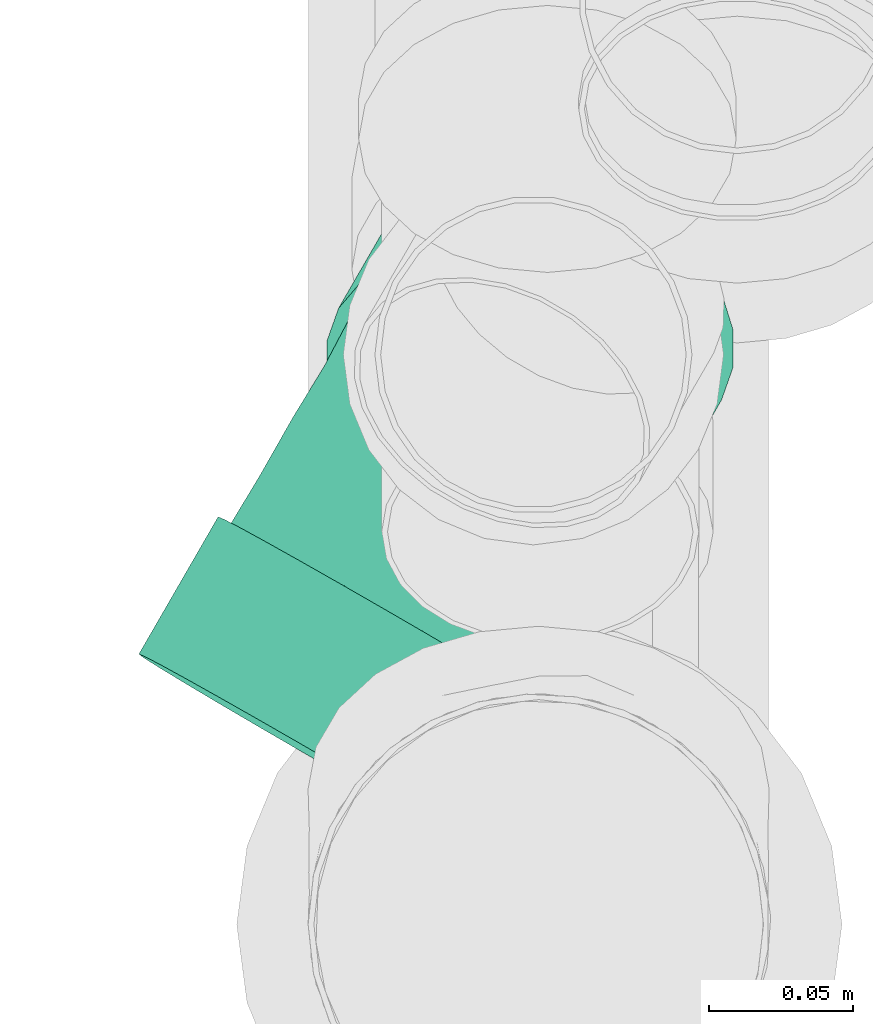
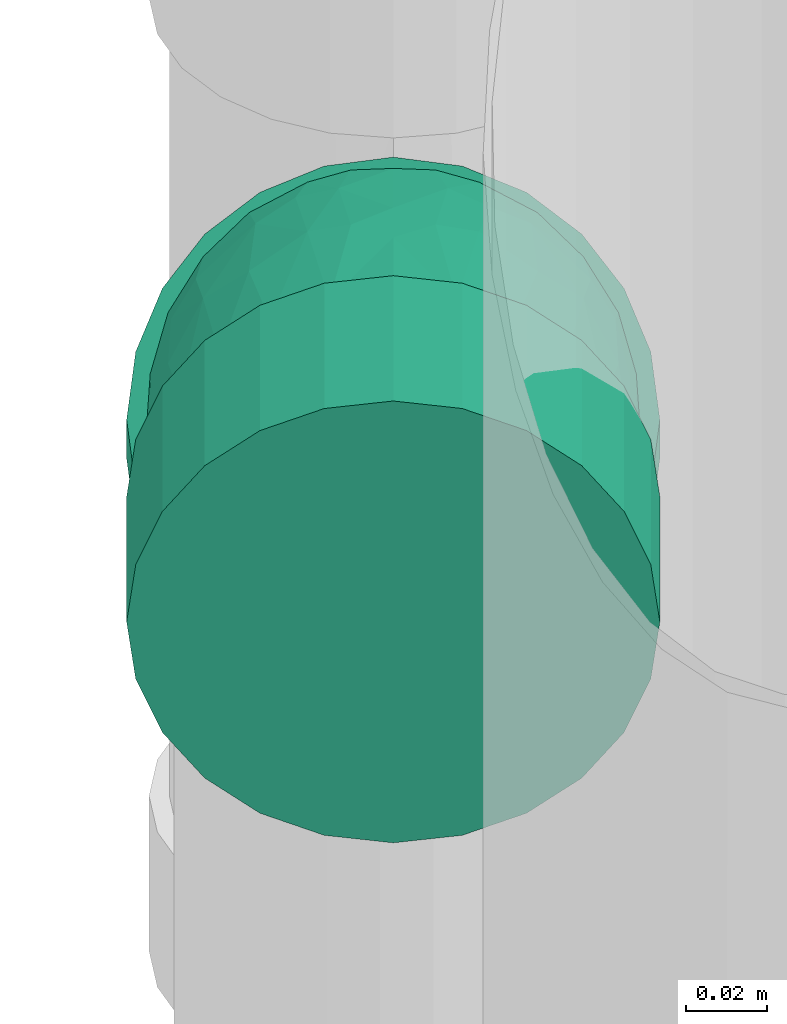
# One storey, part 51 of 78: 1 flow fitting.
"""IFC2X3 building model written with IfcOpenShell, lengths in millimetres."""

from ifc_helpers import new_model, entity, si_unit, converted_unit, derived_unit, direction, frame, origin_with_axes, place, context, subcontext, project, spatial, open_shell, surface_model, source, transform, mapped, type_object, element, save


model = new_model("IFC2X3")

# Units and contexts
model_context = context("Model", 3, precision=0.01, world=frame((0.0, 4.29681676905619e-09, 0.0)), true_north=direction((4.01073788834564e-13, 1.0)))
plan_context = context("Plan", 3, precision=0.01, world=frame((0.0, 4.29681676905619e-09, 0.0)), true_north=direction((4.01073788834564e-13, 1.0)))
body_context = subcontext(model_context, "Body", "Model", "MODEL_VIEW")
ifc_project = project(units=[converted_unit("PLANEANGLEUNIT", "DEGREE", entity("IfcPositiveLengthMeasure", 0.0174532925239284), si_unit("PLANEANGLEUNIT", "RADIAN"), dimensions=[0, 0, 0, 0, 0, 0, 0]), si_unit("AREAUNIT", "SQUARE_METRE"), si_unit("LENGTHUNIT", "METRE", prefix="MILLI"), si_unit("MASSUNIT", "GRAM", prefix="KILO"), si_unit("POWERUNIT", "WATT"), si_unit("PRESSUREUNIT", "PASCAL"), si_unit("FORCEUNIT", "NEWTON", prefix="KILO"), si_unit("ELECTRICVOLTAGEUNIT", "VOLT"), si_unit("ELECTRICCURRENTUNIT", "AMPERE"), si_unit("THERMODYNAMICTEMPERATUREUNIT", "DEGREE_CELSIUS"), si_unit("TIMEUNIT", "SECOND"), si_unit("VOLUMEUNIT", "CUBIC_METRE"), derived_unit("LINEARVELOCITYUNIT", [(si_unit("LENGTHUNIT", "METRE"), 1), (si_unit("TIMEUNIT", "SECOND"), -1)]), derived_unit("VOLUMETRICFLOWRATEUNIT", [(si_unit("VOLUMEUNIT", "CUBIC_METRE"), 1), (si_unit("TIMEUNIT", "SECOND"), -1)]), derived_unit("THERMALTRANSMITTANCEUNIT", [(si_unit("POWERUNIT", "WATT"), 1), (si_unit("THERMODYNAMICTEMPERATUREUNIT", "KELVIN"), -1), (si_unit("AREAUNIT", "SQUARE_METRE"), -1)]), derived_unit("SOUNDPRESSUREUNIT", [(si_unit("PRESSUREUNIT", "PASCAL"), 1)])], contexts=[model_context, plan_context])

# Site, building, storey
site_placement = place(None, frame((0.0, -4.29681676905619e-09, 0.0), z_axis=(0.0, 0.0, 1.0), x_axis=(1.0, 0.0, 0.0)))
site = spatial("IfcSite", under=ifc_project, at=site_placement, Name="ENGM", CompositionType="ELEMENT")
building_placement = place(site_placement, frame((0.0, 4.29681676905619e-09, 0.0), z_axis=(0.0, 0.0, 1.0), x_axis=(1.0, 0.0, 0.0)))
building = spatial("IfcBuilding", under=site, at=building_placement, Name="TH", CompositionType="ELEMENT")
storey_placement = place(building_placement, frame((0.0, 0.0, 205200.0), z_axis=(0.0, 0.0, 1.0), x_axis=(1.0, 0.0, 0.0)))
storey = spatial("IfcBuildingStorey", under=building, at=storey_placement, Name="Nivå D + 1,2 m", CompositionType="ELEMENT", Elevation=205200.0)

# Flow fitting
pipe_fitting_type = type_object("IfcPipeFittingType", Name="magi_sewer_bend_001 2", PredefinedType="BEND")
shared_shape = source(origin_with_axes(), body_context, "Body", "SurfaceModel", [
    surface_model("IfcShellBasedSurfaceModel", [(-103.93551, -16.95265, -63.26814), (-103.93551, -32.75, -56.72466), (-103.93551, -46.3155, -46.3155), (-103.93551, -63.26814, -16.95265), (-103.93551, 56.72466, -32.75), (-103.93551, -56.72466, -32.75), (-103.93551, -65.5, 0.0), (-103.93551, 16.95265, -63.26814), (-103.93551, 0.0, -65.5), (-103.93551, 32.75, -56.72466), (-103.93551, 46.3155, -46.3155), (-103.93551, 63.26814, -16.95265), (-103.93551, -63.26814, 16.95265), (-103.93551, -56.72466, 32.75), (-103.93551, -46.3155, 46.3155), (-103.93551, 63.26814, 16.95265), (-103.93551, -16.95265, 63.26814), (-103.93551, 0.0, 65.5), (-103.93551, -32.75, 56.72466), (-103.93551, 46.3155, 46.3155), (-103.93551, 56.72466, 32.75), (-103.93551, 65.5, 0.0), (-103.93551, 16.95265, 63.26814), (-103.93551, 32.75, 56.72466), (-48.93551, -16.95265, 63.26814), (-48.93551, 16.95265, 63.26814), (-48.93551, 0.0, 65.5), (-48.93551, -46.3155, 46.3155), (-48.93551, -32.75, 56.72466), (-48.93551, -56.72466, 32.75), (-48.93551, -63.26814, 16.95265), (-48.93551, 46.3155, 46.3155), (-48.93551, 32.75, 56.72466), (-48.93551, 63.26814, 16.95265), (-48.93551, 56.72466, 32.75), (-48.93551, 63.26814, -16.95265), (-48.93551, 65.5, 0.0), (-48.93551, -63.26814, -16.95265), (-48.93551, 32.75, -56.72466), (-48.93551, -65.5, 0.0), (-48.93551, -16.95265, -63.26814), (-48.93551, -56.72466, -32.75), (-48.93551, -46.3155, -46.3155), (-48.93551, -32.75, -56.72466), (-48.93551, 0.0, -65.5), (-48.93551, 46.3155, -46.3155), (-48.93551, 56.72466, -32.75), (-48.93551, 16.95265, -63.26814), (51.94911, 95.79374, 56.72466), (30.73436, 117.73209, 16.95265), (35.28308, 113.02824, 32.75), (42.51903, 105.54547, 46.3155), (62.93068, 84.43762, 63.26814), (74.71535, 72.251, 65.5), (51.94911, 95.79374, -56.72466), (30.73436, 117.73209, -16.95265), (29.18288, 119.33649, 0.0), (35.28308, 113.02824, -32.75), (42.51903, 105.54547, -46.3155), (62.93068, 84.43762, -63.26814), (86.50002, 60.06437, 63.26814), (97.48159, 48.70825, 56.72466), (106.91167, 38.95652, 46.3155), (118.69633, 26.76989, -16.95265), (118.69633, 26.76989, 16.95265), (114.14762, 31.47376, 32.75), (120.24782, 25.16549, 0.0), (86.50002, 60.06437, -63.26814), (97.48159, 48.70825, -56.72466), (74.71535, 72.251, -65.5), (114.14762, 31.47376, -32.75), (106.91167, 38.95652, -46.3155), (67.37422, 0.72315, 46.3155), (80.71037, -13.06788, 0.0), (79.15889, -11.46348, 16.95265), (74.61018, -6.75961, 32.75), (57.94414, 10.47488, 56.72466), (46.96258, 21.831, 63.26814), (79.15889, -11.46348, -16.95265), (67.37422, 0.72315, -46.3155), (74.61018, -6.75961, -32.75), (46.96258, 21.831, -63.26814), (57.94414, 10.47488, -56.72466), (12.41167, 57.56038, -56.72466), (35.17791, 34.01763, -65.5), (23.39324, 46.20425, 63.26814), (-8.80308, 79.49873, -16.95265), (-8.80308, 79.49873, 16.95265), (12.41167, 57.56038, 56.72466), (2.98159, 67.3121, 46.3155), (-4.25437, 74.79487, 32.75), (-4.25437, 74.79487, -32.75), (2.98159, 67.3121, -46.3155), (23.39324, 46.20425, -63.26814), (-10.35456, 81.10313, 0.0), (35.17791, 34.01763, 65.5), (-48.93551, 15.65855, -58.43851), (-48.93551, 0.0, -60.5), (-48.93551, 58.43851, -15.65855), (-48.93551, 30.25, -52.39454), (-48.93551, 52.39454, -30.25), (-48.93551, 42.77996, -42.77996), (-48.93551, -60.5, 0.0), (-48.93551, -30.25, -52.39454), (-48.93551, -42.77996, -42.77996), (-48.93551, -15.65855, -58.43851), (-48.93551, -58.43851, -15.65855), (-48.93551, -52.39454, -30.25), (-48.93551, -58.43851, 15.65855), (-48.93551, 58.43851, 15.65855), (-48.93551, 52.39454, 30.25), (-48.93551, 42.77996, 42.77996), (-48.93551, 30.25, 52.39454), (-48.93551, 15.65855, 58.43851), (-48.93551, -52.39454, 30.25), (-48.93551, -42.77996, 42.77996), (-48.93551, -30.25, 52.39454), (-48.93551, -15.65855, 58.43851), (-48.93551, 0.0, 60.5), (-48.93551, 60.5, 0.0), (-5.44575, 76.02689, -15.65855), (35.17791, 34.01763, -60.5), (24.29283, 45.27397, -58.43851), (14.14955, 55.76322, -52.39454), (5.43932, 64.77054, -42.77996), (-1.24427, 71.6821, -30.25), (77.23461, -9.47356, 0.0), (75.80156, -7.99164, 15.65855), (46.06298, 22.76128, -58.43851), (64.91649, 3.26471, -42.77996), (56.20626, 12.27203, -52.39454), (71.60009, -3.64685, -30.25), (75.80156, -7.99164, -15.65855), (-5.44575, 76.02689, 15.65855), (14.14955, 55.76322, 52.39454), (-1.24427, 71.6821, 30.25), (5.43932, 64.77054, 42.77996), (24.29283, 45.27397, 58.43851), (64.91649, 3.26471, 42.77996), (71.60009, -3.64685, 30.25), (56.20626, 12.27203, 52.39454), (35.17791, 34.01763, 60.5), (46.06298, 22.76128, 58.43851), (-6.8788, 77.50881, 0.0), (-18.46072, -46.2656, 35.45952), (-10.22979, -52.44011, 21.08605), (15.23086, -37.66047, 33.84924), (-19.01538, -56.64597, 0.0), (-2.94039, -54.57534, 0.0), (-12.19845, -55.82085, 10.41462), (-12.6707, -34.24785, 46.72901), (45.43236, -20.42561, 35.45952), (-23.46728, -22.2417, 55.32249), (6.20654, -15.34655, 54.59258), (10.69018, 28.0138, 59.57501), (-17.20704, -5.84813, 59.7082), (-5.51441, 13.63517, 60.27722), (-29.6804, 8.34857, 60.12621), (-16.69891, 41.29043, 49.33511), (-25.54537, 50.74778, 38.14915), (32.33112, 0.3246, 55.32249), (-22.2501, 25.17124, 56.54133), (22.60956, -40.37124, 24.03664), (18.54982, -45.86708, 13.40198), (-24.26184, 59.99085, 24.78451), (47.573, -31.64774, 10.41462), (53.04701, -27.50209, 0.0), (-23.89157, 64.45559, 12.67344), (43.80767, -30.58597, 21.08605), (16.43483, 7.75751, 59.7082), (32.91596, -15.81144, 46.72901), (2.21037, 35.99693, 56.43742), (-26.25255, 64.91316, 0.0), (9.98252, -24.6832, 48.51497), (18.55576, -45.88174, 0.0), (40.05191, -37.18815, 0.0), (-17.20704, -5.84813, -59.7082), (-12.19845, -55.82085, -10.41462), (18.54983, -45.86708, -13.40197), (16.43484, 7.75751, -59.7082), (-27.15863, 12.70677, -59.57501), (-16.91382, 54.2386, -38.14915), (32.91596, -15.81144, -46.72901), (-24.26184, 59.99085, -24.78451), (43.80767, -30.58597, -21.08605), (-27.63168, 62.94299, -12.67344), (-1.50308, 33.56187, -56.54133), (-26.6123, 24.34031, -56.43742), (-10.22979, -52.44011, -21.08605), (-16.69891, 41.29042, -49.33511), (45.43236, -20.42561, -35.45952), (15.23086, -37.66047, -33.84924), (-18.46072, -46.2656, -35.45952), (-12.6707, -34.24785, -46.72901), (9.98252, -24.6832, -48.51497), (-23.46728, -22.2417, -55.32249), (32.33112, 0.3246, -55.32249), (6.20654, -15.34655, -54.59258), (47.573, -31.64774, -10.41462), (15.5326, 26.63387, -60.12621), (11.81099, -44.73846, -24.03664), (-5.51441, 13.63517, -60.27722)], [open_shell([[[0, 1, 2]], [[0, 2, 3]], [[0, 3, 4]], [[3, 2, 5]], [[4, 3, 6]], [[0, 7, 8]], [[0, 9, 7]], [[10, 9, 0]], [[0, 4, 10]], [[6, 11, 4]], [[6, 12, 11]], [[12, 13, 14]], [[11, 14, 15]], [[16, 17, 14]], [[16, 14, 18]], [[15, 14, 17]], [[15, 19, 20]], [[21, 11, 15]], [[19, 22, 23]], [[22, 19, 15]], [[17, 22, 15]], [[11, 12, 14]], [[24, 25, 26]], [[27, 24, 28]], [[27, 29, 30]], [[24, 27, 25]], [[30, 25, 27]], [[25, 31, 32]], [[31, 25, 33]], [[31, 33, 34]], [[25, 30, 33]], [[33, 35, 36]], [[33, 30, 35]], [[37, 38, 39]], [[40, 37, 41]], [[42, 43, 40]], [[42, 40, 41]], [[44, 37, 40]], [[39, 45, 46]], [[46, 35, 39]], [[38, 44, 47]], [[38, 45, 39]], [[38, 37, 44]], [[39, 35, 30]], [[35, 11, 36]], [[46, 4, 35]], [[47, 44, 7]], [[45, 10, 46]], [[35, 4, 11]], [[11, 21, 36]], [[9, 38, 7]], [[9, 10, 45]], [[38, 47, 7]], [[10, 4, 46]], [[45, 38, 9]], [[44, 8, 7]], [[0, 40, 43]], [[42, 1, 43]], [[5, 41, 37]], [[42, 41, 2]], [[3, 37, 39]], [[40, 0, 8]], [[43, 1, 0]], [[42, 2, 1]], [[41, 5, 2]], [[3, 5, 37]], [[39, 6, 3]], [[40, 8, 44]], [[30, 12, 39]], [[29, 13, 30]], [[28, 18, 27]], [[27, 14, 29]], [[30, 13, 12]], [[12, 6, 39]], [[17, 16, 24]], [[16, 18, 28]], [[14, 27, 18]], [[14, 13, 29]], [[24, 16, 28]], [[24, 26, 17]], [[22, 25, 32]], [[31, 23, 32]], [[20, 34, 33]], [[31, 34, 19]], [[15, 33, 36]], [[25, 22, 17]], [[32, 23, 22]], [[31, 19, 23]], [[34, 20, 19]], [[15, 20, 33]], [[36, 21, 15]], [[25, 17, 26]], [[48, 49, 50]], [[48, 50, 51]], [[52, 53, 49]], [[52, 49, 48]], [[49, 53, 54]], [[49, 55, 56]], [[49, 57, 55]], [[58, 57, 49]], [[49, 54, 58]], [[53, 59, 54]], [[53, 60, 59]], [[60, 61, 62]], [[63, 60, 62]], [[62, 64, 63]], [[64, 62, 65]], [[66, 63, 64]], [[67, 63, 68]], [[69, 59, 67]], [[68, 70, 71]], [[70, 68, 63]], [[60, 63, 67]], [[67, 59, 60]], [[72, 73, 74]], [[72, 74, 75]], [[72, 76, 77]], [[73, 72, 78]], [[78, 72, 77]], [[78, 79, 80]], [[79, 78, 81]], [[79, 81, 82]], [[78, 77, 81]], [[81, 83, 84]], [[81, 77, 83]], [[85, 86, 77]], [[87, 85, 88]], [[89, 90, 87]], [[89, 87, 88]], [[86, 85, 87]], [[83, 91, 92]], [[93, 84, 83]], [[83, 86, 91]], [[77, 86, 83]], [[94, 86, 87]], [[85, 77, 95]], [[93, 59, 84]], [[83, 54, 93]], [[86, 94, 55]], [[92, 58, 83]], [[93, 54, 59]], [[59, 69, 84]], [[57, 91, 55]], [[57, 58, 92]], [[91, 86, 55]], [[58, 54, 83]], [[92, 91, 57]], [[94, 56, 55]], [[49, 87, 90]], [[89, 50, 90]], [[48, 88, 85]], [[89, 88, 51]], [[52, 85, 95]], [[87, 49, 56]], [[90, 50, 49]], [[89, 51, 50]], [[88, 48, 51]], [[52, 48, 85]], [[95, 53, 52]], [[87, 56, 94]], [[77, 60, 95]], [[76, 61, 77]], [[75, 65, 72]], [[72, 62, 76]], [[77, 61, 60]], [[60, 53, 95]], [[66, 64, 74]], [[64, 65, 75]], [[62, 72, 65]], [[62, 61, 76]], [[74, 64, 75]], [[74, 73, 66]], [[63, 78, 80]], [[79, 70, 80]], [[68, 82, 81]], [[79, 82, 71]], [[67, 81, 84]], [[78, 63, 66]], [[80, 70, 63]], [[79, 71, 70]], [[82, 68, 71]], [[67, 68, 81]], [[84, 69, 67]], [[78, 66, 73]], [[96, 97, 98]], [[99, 96, 98]], [[98, 100, 101]], [[99, 98, 101]], [[102, 98, 97]], [[103, 104, 105]], [[104, 97, 105]], [[106, 102, 107]], [[104, 107, 102]], [[104, 102, 97]], [[102, 108, 98]], [[109, 98, 108]], [[110, 109, 111]], [[112, 109, 108]], [[111, 109, 112]], [[113, 112, 108]], [[114, 115, 108]], [[116, 108, 115]], [[117, 118, 116]], [[108, 116, 118]], [[118, 113, 108]], [[119, 98, 109]], [[120, 121, 122]], [[120, 122, 123]], [[124, 125, 120]], [[124, 120, 123]], [[126, 121, 127]], [[128, 129, 130]], [[128, 121, 129]], [[131, 126, 132]], [[126, 131, 129]], [[121, 126, 129]], [[121, 120, 127]], [[127, 120, 133]], [[134, 133, 135]], [[127, 133, 134]], [[134, 135, 136]], [[127, 134, 137]], [[127, 138, 139]], [[138, 127, 140]], [[140, 141, 142]], [[141, 140, 127]], [[127, 137, 141]], [[133, 120, 143]], [[144, 145, 146]], [[147, 148, 149]], [[116, 115, 150]], [[139, 138, 151]], [[152, 150, 153]], [[144, 115, 114]], [[137, 154, 141]], [[117, 116, 152]], [[155, 156, 157]], [[118, 117, 155]], [[111, 158, 159]], [[140, 142, 160]], [[157, 113, 118]], [[112, 161, 158]], [[108, 147, 149]], [[134, 136, 158]], [[162, 145, 163]], [[158, 111, 112]], [[144, 150, 115]], [[110, 159, 164]], [[109, 110, 164]], [[127, 165, 166]], [[167, 119, 109]], [[168, 162, 163]], [[145, 149, 163]], [[112, 113, 161]], [[141, 154, 169]], [[138, 140, 170]], [[135, 133, 164]], [[169, 142, 141]], [[150, 144, 146]], [[168, 139, 151]], [[171, 154, 137]], [[170, 140, 160]], [[145, 144, 114]], [[165, 127, 168]], [[170, 151, 138]], [[157, 161, 113]], [[151, 170, 146]], [[109, 164, 167]], [[114, 108, 145]], [[172, 167, 143]], [[150, 173, 153]], [[133, 167, 164]], [[153, 169, 155]], [[135, 164, 159]], [[153, 160, 169]], [[135, 159, 136]], [[156, 155, 169]], [[137, 134, 171]], [[171, 158, 161]], [[152, 155, 117]], [[110, 111, 159]], [[168, 127, 139]], [[151, 146, 162]], [[173, 146, 170]], [[136, 159, 158]], [[158, 171, 134]], [[156, 171, 161]], [[150, 152, 116]], [[155, 152, 153]], [[169, 160, 142]], [[170, 160, 153]], [[108, 102, 147]], [[163, 148, 174]], [[108, 149, 145]], [[148, 163, 149]], [[165, 163, 175]], [[166, 165, 175]], [[166, 126, 127]], [[163, 165, 168]], [[171, 156, 154]], [[154, 156, 169]], [[155, 157, 118]], [[161, 157, 156]], [[146, 173, 150]], [[170, 153, 173]], [[143, 167, 133]], [[167, 172, 119]], [[151, 162, 168]], [[145, 162, 146]], [[175, 163, 174]], [[105, 97, 176]], [[148, 177, 178]], [[121, 128, 179]], [[180, 97, 96]], [[100, 181, 101]], [[130, 129, 182]], [[183, 181, 100]], [[131, 132, 184]], [[98, 185, 183]], [[123, 122, 186]], [[106, 177, 147]], [[99, 187, 96]], [[177, 106, 188]], [[124, 189, 181]], [[182, 190, 191]], [[192, 188, 107]], [[104, 103, 193]], [[194, 191, 193]], [[106, 107, 188]], [[104, 192, 107]], [[195, 103, 105]], [[196, 179, 128]], [[120, 125, 183]], [[197, 195, 176]], [[119, 172, 185]], [[184, 190, 131]], [[143, 120, 185]], [[197, 176, 179]], [[124, 123, 189]], [[183, 100, 98]], [[125, 181, 183]], [[195, 193, 103]], [[186, 189, 123]], [[180, 176, 97]], [[189, 186, 187]], [[101, 189, 99]], [[132, 166, 198]], [[199, 122, 121]], [[196, 128, 130]], [[200, 184, 178]], [[131, 190, 129]], [[197, 196, 182]], [[190, 182, 129]], [[201, 199, 179]], [[191, 190, 184]], [[201, 179, 176]], [[198, 166, 175]], [[199, 186, 122]], [[187, 180, 96]], [[177, 188, 178]], [[192, 193, 191]], [[182, 194, 197]], [[193, 192, 104]], [[120, 183, 185]], [[192, 191, 200]], [[125, 124, 181]], [[101, 181, 189]], [[189, 187, 99]], [[201, 187, 186]], [[176, 195, 105]], [[193, 195, 197]], [[182, 196, 130]], [[179, 196, 197]], [[147, 177, 148]], [[147, 102, 106]], [[200, 178, 188]], [[198, 178, 184]], [[178, 175, 174]], [[132, 126, 166]], [[178, 198, 175]], [[132, 198, 184]], [[187, 201, 180]], [[180, 201, 176]], [[179, 199, 121]], [[186, 199, 201]], [[191, 194, 182]], [[193, 197, 194]], [[119, 185, 98]], [[185, 172, 143]], [[192, 200, 188]], [[184, 200, 191]], [[148, 178, 174]]])]),
])
flow_fitting_placement = place(storey_placement, frame((895808.82994, 479976.64559, 7551.48006), z_axis=(0.866025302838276, -0.500000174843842, -1.94289029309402e-16), x_axis=(-0.353553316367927, -0.612372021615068, 0.707107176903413)))
element("IfcFlowFitting", 1, at=flow_fitting_placement, inside=storey, type_object=pipe_fitting_type, Name="magi_sewer_bend_001 2", context=body_context, shape_type="MappedRepresentation", body=[
    mapped(shared_shape, transform((0.0, 0.0, 0.0), scale=1.0)),
])

save(model, "model.ifc")
